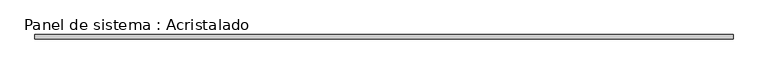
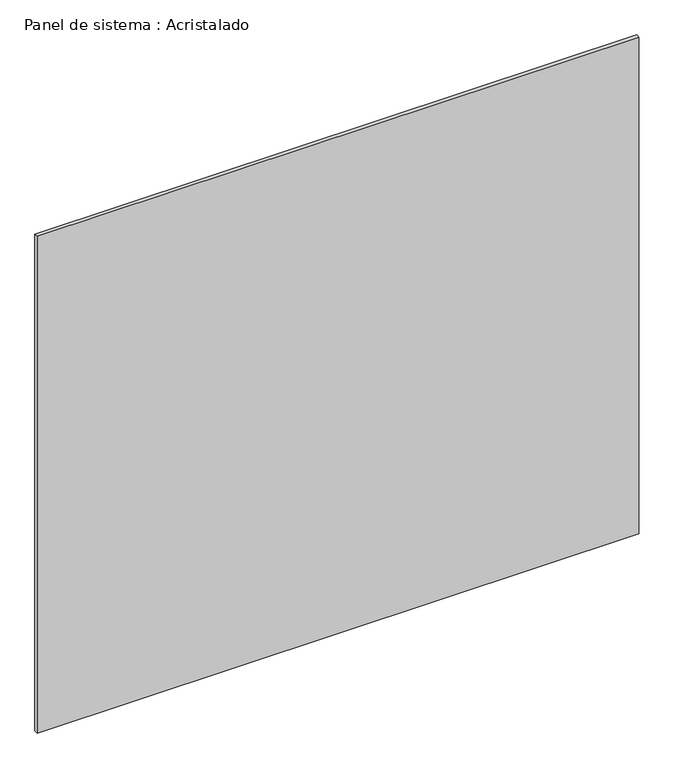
"""IFC4 building model written with IfcOpenShell, lengths in millimetres: plate geometry, Panel de sistema : Acristalado."""

from ifc_helpers import new_model, si_unit, origin, origin_with_axes, place, context, project, spatial, polyline, outline, extrude, source, transform, mapped, element, save


def panel_de_sistema_acristalado_f31e4230(model_context):
    return source(origin(), model_context, "Body", "SweptSolid", [
        extrude(outline(polyline([(1615.450431, -10.0), (-1615.450431, -10.0), (-1615.450431, 10.0), (1615.450431, 10.0), (1615.450431, -10.0)])), origin_with_axes(), (0.0, 0.0, 1.0), 2820.0),
    ])


if __name__ == "__main__":
    model = new_model("IFC4")
    model_context = context("Model", 3, world=origin())
    ifc_project = project(units=[si_unit("LENGTHUNIT", "METRE", prefix="MILLI")], contexts=[model_context])
    site = spatial("IfcSite", under=ifc_project)
    building = spatial("IfcBuilding", under=site)
    placement = place(None, origin())
    panel_de_sistema_acristalado_shape = panel_de_sistema_acristalado_f31e4230(model_context)
    element("IfcPlate", 1, ObjectType="Panel de sistema : Acristalado", at=placement, inside=building, context=model_context, shape_type="MappedRepresentation", body=[
        mapped(panel_de_sistema_acristalado_shape, transform((0.0, 0.0, 0.0), x_axis=(1.0, 0.0, 0.0), y_axis=(0.0, 1.0, 0.0), z_axis=(0.0, 0.0, 1.0))),
    ])
    save(model, "model.ifc")
